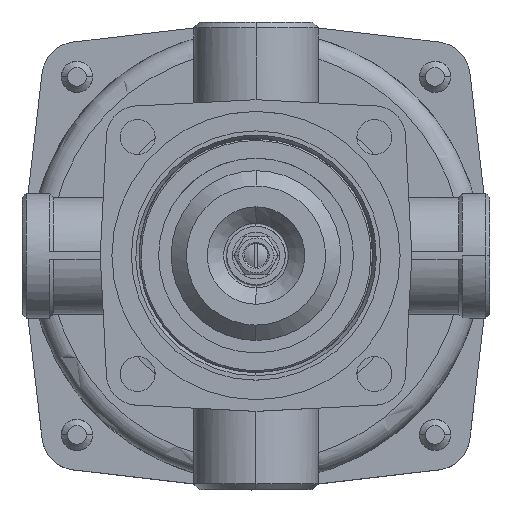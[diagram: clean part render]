
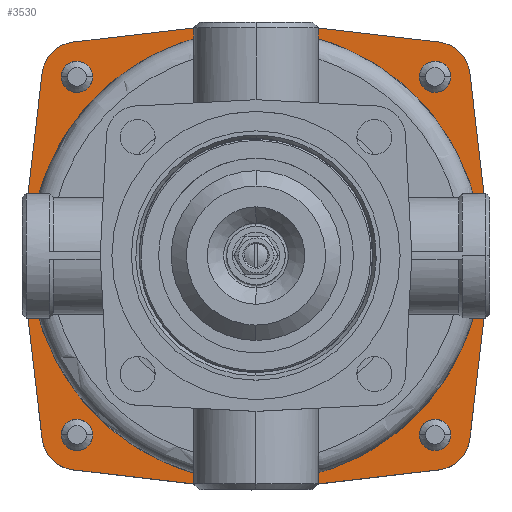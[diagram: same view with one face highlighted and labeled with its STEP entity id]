
A CAD part, top view. The second image highlights one B-rep face of the part: STEP entity #3530.
In plain terms, the highlighted planar face has unit normal (0, 0, 1).
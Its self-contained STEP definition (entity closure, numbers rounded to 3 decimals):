
#609=FACE_BOUND('',#6020,.T.);
#610=FACE_BOUND('',#6021,.T.);
#611=FACE_BOUND('',#6022,.T.);
#612=FACE_BOUND('',#6023,.T.);
#613=FACE_BOUND('',#6024,.T.);
#614=FACE_BOUND('',#6025,.T.);
#868=PLANE('',#18408);
#3530=ADVANCED_FACE('',(#609,#610,#611,#612,#613,#614),#868,.T.);
#6020=EDGE_LOOP('',(#8445,#8446));
#6021=EDGE_LOOP('',(#8447,#8448));
#6022=EDGE_LOOP('',(#8449,#8450));
#6023=EDGE_LOOP('',(#8451,#8452));
#6024=EDGE_LOOP('',(#8453,#8454));
#6025=EDGE_LOOP('',(#8455,#8456,#8457,#8458,#8459,#8460,#8461,#8462,#8463,
#8464,#8465,#8466,#8467,#8468,#8469,#8470));
#7108=CIRCLE('',#18373,4.);
#7109=CIRCLE('',#18375,4.);
#7110=CIRCLE('',#18380,4.);
#7111=CIRCLE('',#18382,4.);
#7112=CIRCLE('',#18387,4.);
#7113=CIRCLE('',#18389,4.);
#7114=CIRCLE('',#18394,4.);
#7115=CIRCLE('',#18396,4.);
#7116=CIRCLE('',#18398,58.);
#7117=CIRCLE('',#18399,58.);
#7118=CIRCLE('',#18400,60.);
#7119=CIRCLE('',#18401,9.005);
#7120=CIRCLE('',#18402,60.);
#7121=CIRCLE('',#18403,9.005);
#7122=CIRCLE('',#18404,60.);
#7123=CIRCLE('',#18405,9.005);
#7124=CIRCLE('',#18406,60.);
#7125=CIRCLE('',#18407,9.005);
#8445=ORIENTED_EDGE('',*,*,#15326,.F.);
#8446=ORIENTED_EDGE('',*,*,#15327,.F.);
#8447=ORIENTED_EDGE('',*,*,#15336,.F.);
#8448=ORIENTED_EDGE('',*,*,#15337,.F.);
#8449=ORIENTED_EDGE('',*,*,#15346,.F.);
#8450=ORIENTED_EDGE('',*,*,#15347,.F.);
#8451=ORIENTED_EDGE('',*,*,#15356,.F.);
#8452=ORIENTED_EDGE('',*,*,#15357,.F.);
#8453=ORIENTED_EDGE('',*,*,#15358,.T.);
#8454=ORIENTED_EDGE('',*,*,#15359,.T.);
#8455=ORIENTED_EDGE('',*,*,#15360,.F.);
#8456=ORIENTED_EDGE('',*,*,#15361,.F.);
#8457=ORIENTED_EDGE('',*,*,#15362,.F.);
#8458=ORIENTED_EDGE('',*,*,#15363,.F.);
#8459=ORIENTED_EDGE('',*,*,#15364,.F.);
#8460=ORIENTED_EDGE('',*,*,#15365,.F.);
#8461=ORIENTED_EDGE('',*,*,#15366,.F.);
#8462=ORIENTED_EDGE('',*,*,#15367,.F.);
#8463=ORIENTED_EDGE('',*,*,#15368,.F.);
#8464=ORIENTED_EDGE('',*,*,#15369,.F.);
#8465=ORIENTED_EDGE('',*,*,#15370,.F.);
#8466=ORIENTED_EDGE('',*,*,#15371,.F.);
#8467=ORIENTED_EDGE('',*,*,#15372,.F.);
#8468=ORIENTED_EDGE('',*,*,#15373,.F.);
#8469=ORIENTED_EDGE('',*,*,#15374,.F.);
#8470=ORIENTED_EDGE('',*,*,#15375,.F.);
#13460=VERTEX_POINT('',#27703);
#13461=VERTEX_POINT('',#27708);
#13466=VERTEX_POINT('',#27766);
#13467=VERTEX_POINT('',#27771);
#13472=VERTEX_POINT('',#27829);
#13473=VERTEX_POINT('',#27834);
#13478=VERTEX_POINT('',#27892);
#13479=VERTEX_POINT('',#27897);
#13480=VERTEX_POINT('',#27903);
#13481=VERTEX_POINT('',#27904);
#13482=VERTEX_POINT('',#27907);
#13483=VERTEX_POINT('',#27908);
#13484=VERTEX_POINT('',#27910);
#13485=VERTEX_POINT('',#27912);
#13486=VERTEX_POINT('',#27914);
#13487=VERTEX_POINT('',#27916);
#13488=VERTEX_POINT('',#27918);
#13489=VERTEX_POINT('',#27920);
#13490=VERTEX_POINT('',#27922);
#13491=VERTEX_POINT('',#27924);
#13492=VERTEX_POINT('',#27926);
#13493=VERTEX_POINT('',#27928);
#13494=VERTEX_POINT('',#27930);
#13495=VERTEX_POINT('',#27932);
#13496=VERTEX_POINT('',#27934);
#13497=VERTEX_POINT('',#27936);
#15326=EDGE_CURVE('',#13461,#13460,#7108,.T.);
#15327=EDGE_CURVE('',#13460,#13461,#7109,.T.);
#15336=EDGE_CURVE('',#13467,#13466,#7110,.T.);
#15337=EDGE_CURVE('',#13466,#13467,#7111,.T.);
#15346=EDGE_CURVE('',#13473,#13472,#7112,.T.);
#15347=EDGE_CURVE('',#13472,#13473,#7113,.T.);
#15356=EDGE_CURVE('',#13479,#13478,#7114,.T.);
#15357=EDGE_CURVE('',#13478,#13479,#7115,.T.);
#15358=EDGE_CURVE('',#13480,#13481,#7116,.T.);
#15359=EDGE_CURVE('',#13481,#13480,#7117,.T.);
#15360=EDGE_CURVE('',#13482,#13483,#7118,.T.);
#15361=EDGE_CURVE('',#13484,#13482,#17651,.T.);
#15362=EDGE_CURVE('',#13485,#13484,#7119,.T.);
#15363=EDGE_CURVE('',#13486,#13485,#17652,.T.);
#15364=EDGE_CURVE('',#13487,#13486,#7120,.T.);
#15365=EDGE_CURVE('',#13488,#13487,#17653,.T.);
#15366=EDGE_CURVE('',#13489,#13488,#7121,.T.);
#15367=EDGE_CURVE('',#13490,#13489,#17654,.T.);
#15368=EDGE_CURVE('',#13491,#13490,#7122,.T.);
#15369=EDGE_CURVE('',#13492,#13491,#17655,.T.);
#15370=EDGE_CURVE('',#13493,#13492,#7123,.T.);
#15371=EDGE_CURVE('',#13494,#13493,#17656,.T.);
#15372=EDGE_CURVE('',#13495,#13494,#7124,.T.);
#15373=EDGE_CURVE('',#13496,#13495,#17657,.T.);
#15374=EDGE_CURVE('',#13497,#13496,#7125,.T.);
#15375=EDGE_CURVE('',#13483,#13497,#17658,.T.);
#17651=LINE('',#27909,#17927);
#17652=LINE('',#27913,#17928);
#17653=LINE('',#27917,#17929);
#17654=LINE('',#27921,#17930);
#17655=LINE('',#27925,#17931);
#17656=LINE('',#27929,#17932);
#17657=LINE('',#27933,#17933);
#17658=LINE('',#27937,#17934);
#17927=VECTOR('',#20087,1.);
#17928=VECTOR('',#20090,1.);
#17929=VECTOR('',#20093,1.);
#17930=VECTOR('',#20096,1.);
#17931=VECTOR('',#20099,1.);
#17932=VECTOR('',#20102,1.);
#17933=VECTOR('',#20105,1.);
#17934=VECTOR('',#20108,1.);
#18373=AXIS2_PLACEMENT_3D('',#27709,#20025,#20026);
#18375=AXIS2_PLACEMENT_3D('',#27711,#20029,#20030);
#18380=AXIS2_PLACEMENT_3D('',#27772,#20041,#20042);
#18382=AXIS2_PLACEMENT_3D('',#27774,#20045,#20046);
#18387=AXIS2_PLACEMENT_3D('',#27835,#20057,#20058);
#18389=AXIS2_PLACEMENT_3D('',#27837,#20061,#20062);
#18394=AXIS2_PLACEMENT_3D('',#27898,#20073,#20074);
#18396=AXIS2_PLACEMENT_3D('',#27900,#20077,#20078);
#18398=AXIS2_PLACEMENT_3D('',#27902,#20081,#20082);
#18399=AXIS2_PLACEMENT_3D('',#27905,#20083,#20084);
#18400=AXIS2_PLACEMENT_3D('',#27906,#20085,#20086);
#18401=AXIS2_PLACEMENT_3D('',#27911,#20088,#20089);
#18402=AXIS2_PLACEMENT_3D('',#27915,#20091,#20092);
#18403=AXIS2_PLACEMENT_3D('',#27919,#20094,#20095);
#18404=AXIS2_PLACEMENT_3D('',#27923,#20097,#20098);
#18405=AXIS2_PLACEMENT_3D('',#27927,#20100,#20101);
#18406=AXIS2_PLACEMENT_3D('',#27931,#20103,#20104);
#18407=AXIS2_PLACEMENT_3D('',#27935,#20106,#20107);
#18408=AXIS2_PLACEMENT_3D('',#27938,#20109,#20110);
#20025=DIRECTION('',(0.,0.,1.));
#20026=DIRECTION('',(-1.,0.,0.));
#20029=DIRECTION('',(0.,0.,1.));
#20030=DIRECTION('',(1.,0.,0.));
#20041=DIRECTION('',(0.,0.,1.));
#20042=DIRECTION('',(-1.,0.,0.));
#20045=DIRECTION('',(0.,0.,1.));
#20046=DIRECTION('',(1.,0.,0.));
#20057=DIRECTION('',(0.,0.,1.));
#20058=DIRECTION('',(-1.,0.,0.));
#20061=DIRECTION('',(0.,0.,1.));
#20062=DIRECTION('',(1.,0.,0.));
#20073=DIRECTION('',(0.,0.,1.));
#20074=DIRECTION('',(-1.,0.,0.));
#20077=DIRECTION('',(0.,0.,1.));
#20078=DIRECTION('',(1.,0.,0.));
#20081=DIRECTION('',(0.,0.,-1.));
#20082=DIRECTION('',(0.,1.,0.));
#20083=DIRECTION('',(0.,0.,-1.));
#20084=DIRECTION('',(0.,-1.,0.));
#20085=DIRECTION('',(0.,0.,-1.));
#20086=DIRECTION('',(-0.993,-0.116,0.));
#20087=DIRECTION('',(-0.116,0.993,0.));
#20088=DIRECTION('',(0.,0.,-1.));
#20089=DIRECTION('',(-0.117,-0.993,0.));
#20090=DIRECTION('',(-0.993,0.116,0.));
#20091=DIRECTION('',(0.,0.,-1.));
#20092=DIRECTION('',(0.116,-0.993,0.));
#20093=DIRECTION('',(-0.993,-0.116,0.));
#20094=DIRECTION('',(0.,0.,-1.));
#20095=DIRECTION('',(0.993,-0.117,0.));
#20096=DIRECTION('',(-0.116,-0.993,0.));
#20097=DIRECTION('',(0.,0.,-1.));
#20098=DIRECTION('',(0.993,0.116,0.));
#20099=DIRECTION('',(0.116,-0.993,0.));
#20100=DIRECTION('',(0.,0.,-1.));
#20101=DIRECTION('',(0.117,0.993,0.));
#20102=DIRECTION('',(0.993,-0.116,0.));
#20103=DIRECTION('',(0.,0.,-1.));
#20104=DIRECTION('',(-0.116,0.993,0.));
#20105=DIRECTION('',(0.993,0.116,0.));
#20106=DIRECTION('',(0.,0.,-1.));
#20107=DIRECTION('',(-0.993,0.117,0.));
#20108=DIRECTION('',(0.116,0.993,0.));
#20109=DIRECTION('',(0.,0.,1.));
#20110=DIRECTION('',(0.,1.,0.));
#27703=CARTESIAN_POINT('',(-41.962,45.962,16.));
#27708=CARTESIAN_POINT('',(-49.962,45.962,16.));
#27709=CARTESIAN_POINT('',(-45.962,45.962,16.));
#27711=CARTESIAN_POINT('',(-45.962,45.962,16.));
#27766=CARTESIAN_POINT('',(49.962,45.962,16.));
#27771=CARTESIAN_POINT('',(41.962,45.962,16.));
#27772=CARTESIAN_POINT('',(45.962,45.962,16.));
#27774=CARTESIAN_POINT('',(45.962,45.962,16.));
#27829=CARTESIAN_POINT('',(49.962,-45.962,16.));
#27834=CARTESIAN_POINT('',(41.962,-45.962,16.));
#27835=CARTESIAN_POINT('',(45.962,-45.962,16.));
#27837=CARTESIAN_POINT('',(45.962,-45.962,16.));
#27892=CARTESIAN_POINT('',(-41.962,-45.962,16.));
#27897=CARTESIAN_POINT('',(-49.962,-45.962,16.));
#27898=CARTESIAN_POINT('',(-45.962,-45.962,16.));
#27900=CARTESIAN_POINT('',(-45.962,-45.962,16.));
#27902=CARTESIAN_POINT('',(0.,0.,16.));
#27903=CARTESIAN_POINT('',(0.,58.,16.));
#27904=CARTESIAN_POINT('',(0.,-58.,16.));
#27905=CARTESIAN_POINT('',(0.,0.,16.));
#27906=CARTESIAN_POINT('',(0.,0.,16.));
#27907=CARTESIAN_POINT('',(-59.592,-6.985,16.));
#27908=CARTESIAN_POINT('',(-59.592,6.985,16.));
#27909=CARTESIAN_POINT('',(-54.901,-47.01,16.));
#27910=CARTESIAN_POINT('',(-54.901,-47.01,16.));
#27911=CARTESIAN_POINT('',(-45.957,-45.957,16.));
#27912=CARTESIAN_POINT('',(-47.01,-54.901,16.));
#27913=CARTESIAN_POINT('',(-6.985,-59.592,16.));
#27914=CARTESIAN_POINT('',(-6.985,-59.592,16.));
#27915=CARTESIAN_POINT('',(0.,0.,16.));
#27916=CARTESIAN_POINT('',(6.985,-59.592,16.));
#27917=CARTESIAN_POINT('',(47.01,-54.901,16.));
#27918=CARTESIAN_POINT('',(47.01,-54.901,16.));
#27919=CARTESIAN_POINT('',(45.957,-45.957,16.));
#27920=CARTESIAN_POINT('',(54.901,-47.01,16.));
#27921=CARTESIAN_POINT('',(59.592,-6.985,16.));
#27922=CARTESIAN_POINT('',(59.592,-6.985,16.));
#27923=CARTESIAN_POINT('',(0.,0.,16.));
#27924=CARTESIAN_POINT('',(59.592,6.985,16.));
#27925=CARTESIAN_POINT('',(54.901,47.01,16.));
#27926=CARTESIAN_POINT('',(54.901,47.01,16.));
#27927=CARTESIAN_POINT('',(45.957,45.957,16.));
#27928=CARTESIAN_POINT('',(47.01,54.901,16.));
#27929=CARTESIAN_POINT('',(6.985,59.592,16.));
#27930=CARTESIAN_POINT('',(6.985,59.592,16.));
#27931=CARTESIAN_POINT('',(0.,0.,16.));
#27932=CARTESIAN_POINT('',(-6.985,59.592,16.));
#27933=CARTESIAN_POINT('',(-47.01,54.901,16.));
#27934=CARTESIAN_POINT('',(-47.01,54.901,16.));
#27935=CARTESIAN_POINT('',(-45.957,45.957,16.));
#27936=CARTESIAN_POINT('',(-54.901,47.01,16.));
#27937=CARTESIAN_POINT('',(-59.592,6.985,16.));
#27938=CARTESIAN_POINT('',(0.,0.,16.));
